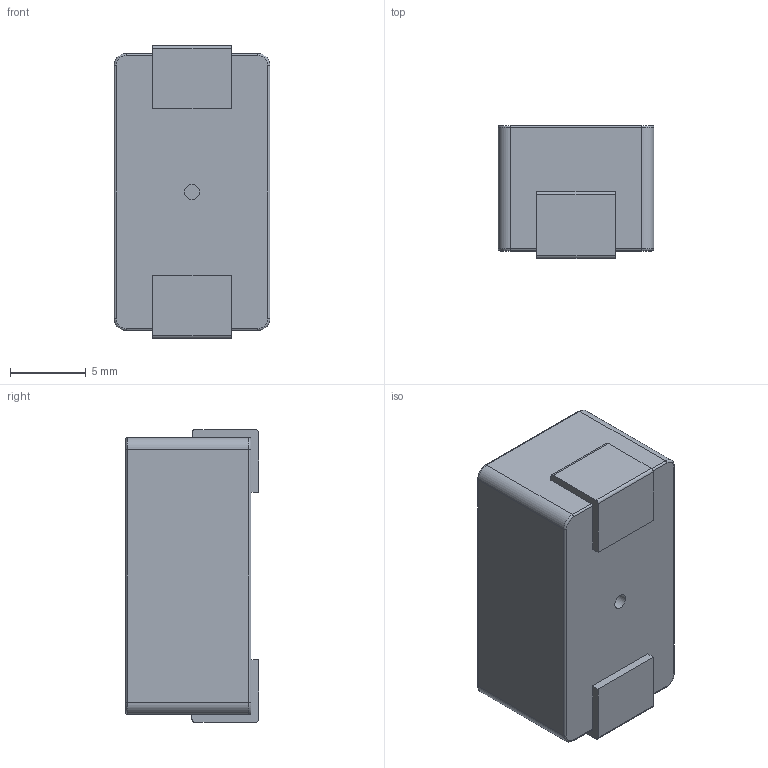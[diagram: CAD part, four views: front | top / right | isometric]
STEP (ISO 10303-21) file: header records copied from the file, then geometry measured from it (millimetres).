
FILE_DESCRIPTION (( 'STEP AP214' ), '1' );
FILE_NAME ('P700L Figure 3 Assembly.STEP', '2024-06-05T16:04:17', ( '' ), ( '' ), 'SwSTEP 2.0', 'SolidWorks 2019', '' );
FILE_SCHEMA (( 'AUTOMOTIVE_DESIGN' ));
Length unit declared in the file: inch
Products named in the file (10): P700L Figure 3 125VDC Text; P700L Figure 3 Glass; P700L Figure 3 Assembly; P700L Figure 3 Terminal; P700L Figure 3 Solder; P700L Figure 3 P700L Text; P700L Figure 3 Body; P700L Figure 3 15.0 A Text; P700L Figure 3 Element; P700L Figure 3 C-4607 Text
Assembly tree (11 placements, depth 2):
  P700L Figure 3 Assembly
    P700L Figure 3 Body
    P700L Figure 3 Terminal  x2
    P700L Figure 3 Element
    P700L Figure 3 Glass
    P700L Figure 3 Solder  x2
    P700L Figure 3 P700L Text
    P700L Figure 3 125VDC Text
    P700L Figure 3 15.0 A Text
    P700L Figure 3 C-4607 Text
Bounding box: 10.29 x 8.79 x 19.3 mm (x, y, z)
Volume: 1586.8 mm3; surface area: 1652.3 mm2
Topology: 29 solids, 29 shells, 456 faces, 1168 edges, 772 vertices
Faces by surface type: plane 240, bspline 175, cylinder 33, torus 8
Full cylindrical faces by diameter (mm): 1.016 x1
Entity records: 20156 total; most frequent: CARTESIAN_POINT 9882, ORIENTED_EDGE 2244, DIRECTION 1388, EDGE_CURVE 1122, VERTEX_POINT 742, LINE 708, VECTOR 708, EDGE_LOOP 456
